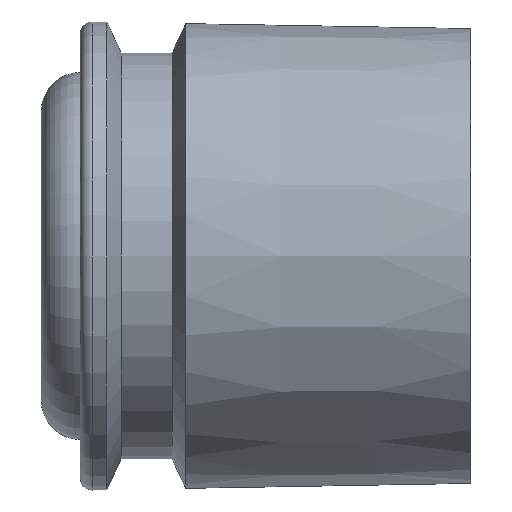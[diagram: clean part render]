
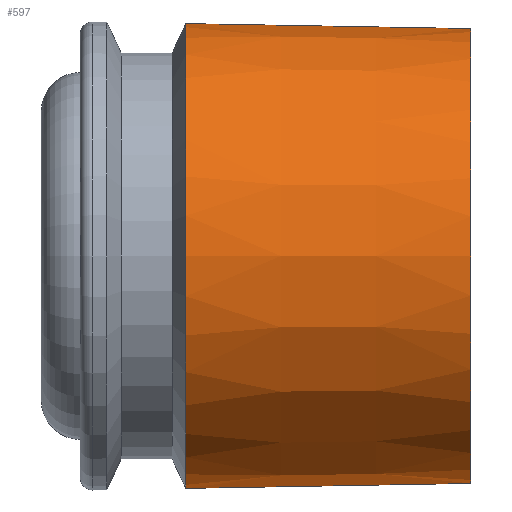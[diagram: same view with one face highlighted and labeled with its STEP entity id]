
A CAD part, left-side view. The second image highlights one B-rep face of the part: STEP entity #597.
In plain terms, the highlighted conical face has half-angle 1 degrees and reference radius 5.953 mm.
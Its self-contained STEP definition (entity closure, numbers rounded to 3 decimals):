
#6 = DIRECTION ( 'NONE',  ( 0., 1., 0.017 ) ) ;
#20 = CIRCLE ( 'NONE', #697, 5.825 ) ;
#21 = CARTESIAN_POINT ( 'NONE',  ( 0., 7.296, -5.953 ) ) ;
#61 = DIRECTION ( 'NONE',  ( 0., 0., 1. ) ) ;
#72 = DIRECTION ( 'NONE',  ( 0., 1., -0.017 ) ) ;
#105 = VERTEX_POINT ( 'NONE', #213 ) ;
#121 = VERTEX_POINT ( 'NONE', #216 ) ;
#135 = CARTESIAN_POINT ( 'NONE',  ( 0., 0., 0. ) ) ;
#174 = CARTESIAN_POINT ( 'NONE',  ( 0., 7.296, 0. ) ) ;
#194 = VECTOR ( 'NONE', #72, 1000. ) ;
#210 = EDGE_CURVE ( 'NONE', #121, #105, #333, .T. ) ;
#213 = CARTESIAN_POINT ( 'NONE',  ( 0., 7.296, 5.953 ) ) ;
#216 = CARTESIAN_POINT ( 'NONE',  ( 0., 0., 5.825 ) ) ;
#227 = LINE ( 'NONE', #21, #194 ) ;
#237 = FACE_OUTER_BOUND ( 'NONE', #388, .T. ) ;
#245 = VERTEX_POINT ( 'NONE', #664 ) ;
#247 = CARTESIAN_POINT ( 'NONE',  ( 0., 0., -5.825 ) ) ;
#278 = AXIS2_PLACEMENT_3D ( 'NONE', #349, #620, #61 ) ;
#279 = CARTESIAN_POINT ( 'NONE',  ( 0., 7.296, 5.953 ) ) ;
#298 = VERTEX_POINT ( 'NONE', #247 ) ;
#333 = LINE ( 'NONE', #279, #582 ) ;
#338 = AXIS2_PLACEMENT_3D ( 'NONE', #174, #397, #610 ) ;
#348 = DIRECTION ( 'NONE',  ( 0., 0., -1. ) ) ;
#349 = CARTESIAN_POINT ( 'NONE',  ( 0., 7.296, 0. ) ) ;
#355 = ORIENTED_EDGE ( 'NONE', *, *, #462, .F. ) ;
#375 = CONICAL_SURFACE ( 'NONE', #278, 5.953, 0.017 ) ;
#388 = EDGE_LOOP ( 'NONE', ( #401, #355, #596, #649 ) ) ;
#397 = DIRECTION ( 'NONE',  ( 0., -1., 0. ) ) ;
#401 = ORIENTED_EDGE ( 'NONE', *, *, #520, .F. ) ;
#462 = EDGE_CURVE ( 'NONE', #121, #298, #20, .T. ) ;
#519 = DIRECTION ( 'NONE',  ( 0., -1., 0. ) ) ;
#520 = EDGE_CURVE ( 'NONE', #298, #245, #227, .T. ) ;
#582 = VECTOR ( 'NONE', #6, 1000. ) ;
#591 = CIRCLE ( 'NONE', #338, 5.953 ) ;
#594 = EDGE_CURVE ( 'NONE', #105, #245, #591, .T. ) ;
#596 = ORIENTED_EDGE ( 'NONE', *, *, #210, .T. ) ;
#597 = ADVANCED_FACE ( 'NONE', ( #237 ), #375, .T. ) ;
#610 = DIRECTION ( 'NONE',  ( 0., 0., -1. ) ) ;
#620 = DIRECTION ( 'NONE',  ( 0., 1., 0. ) ) ;
#649 = ORIENTED_EDGE ( 'NONE', *, *, #594, .T. ) ;
#664 = CARTESIAN_POINT ( 'NONE',  ( 0., 7.296, -5.953 ) ) ;
#697 = AXIS2_PLACEMENT_3D ( 'NONE', #135, #519, #348 ) ;
